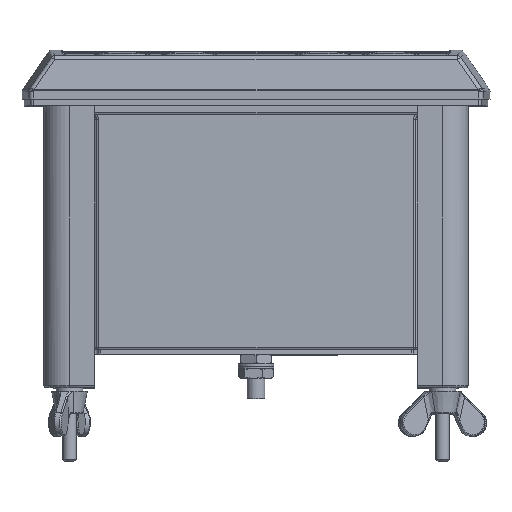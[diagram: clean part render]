
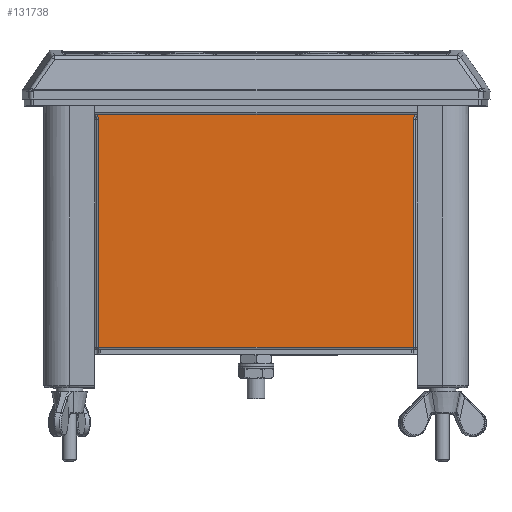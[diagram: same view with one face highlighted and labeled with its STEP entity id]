
A CAD part, front view. The second image highlights one B-rep face of the part: STEP entity #131738.
In plain terms, the highlighted planar face has unit normal (0, -1, 0.002).
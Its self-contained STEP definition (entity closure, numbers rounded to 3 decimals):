
#4489 = CARTESIAN_POINT ( 'NONE',  ( -35.2, -21., -55.5 ) ) ;
#13737 = EDGE_CURVE ( 'NONE', #54902, #117053, #72375, .T. ) ;
#15161 = DIRECTION ( 'NONE',  ( 0., 1., 0. ) ) ;
#17212 = AXIS2_PLACEMENT_3D ( 'NONE', #31670, #157993, #19333 ) ;
#17715 = AXIS2_PLACEMENT_3D ( 'NONE', #127565, #15161, #153804 ) ;
#19333 = DIRECTION ( 'NONE',  ( -1., 0., 0. ) ) ;
#24251 = ORIENTED_EDGE ( 'NONE', *, *, #115477, .T. ) ;
#30584 = ORIENTED_EDGE ( 'NONE', *, *, #35574, .F. ) ;
#31670 = CARTESIAN_POINT ( 'NONE',  ( 36.5, -21., -3.5 ) ) ;
#35574 = EDGE_CURVE ( 'NONE', #143733, #145106, #161404, .T. ) ;
#40367 = ORIENTED_EDGE ( 'NONE', *, *, #44805, .T. ) ;
#43808 = EDGE_CURVE ( 'NONE', #117053, #122779, #46345, .T. ) ;
#44805 = EDGE_CURVE ( 'NONE', #69319, #54902, #154012, .T. ) ;
#46142 = ORIENTED_EDGE ( 'NONE', *, *, #43808, .T. ) ;
#46345 = LINE ( 'NONE', #56266, #138611 ) ;
#46762 = ORIENTED_EDGE ( 'NONE', *, *, #13737, .T. ) ;
#48889 = CARTESIAN_POINT ( 'NONE',  ( 36.5, -21., -3.5 ) ) ;
#52425 = VECTOR ( 'NONE', #66987, 1000. ) ;
#54902 = VERTEX_POINT ( 'NONE', #4489 ) ;
#56266 = CARTESIAN_POINT ( 'NONE',  ( 35.2, -21., -3.5 ) ) ;
#66213 = CARTESIAN_POINT ( 'NONE',  ( -35.2, -21., -3.5 ) ) ;
#66440 = CARTESIAN_POINT ( 'NONE',  ( -35.582, -21., -3.5 ) ) ;
#66987 = DIRECTION ( 'NONE',  ( 0., 0., -1. ) ) ;
#69319 = VERTEX_POINT ( 'NONE', #114702 ) ;
#69348 = PLANE ( 'NONE',  #17212 ) ;
#72375 = LINE ( 'NONE', #97027, #78078 ) ;
#77475 = CARTESIAN_POINT ( 'NONE',  ( 36.7, -21., -4.5 ) ) ;
#78078 = VECTOR ( 'NONE', #133959, 1000. ) ;
#80686 = EDGE_LOOP ( 'NONE', ( #40367, #46762, #46142, #124013, #30584, #24251 ) ) ;
#84134 = FACE_OUTER_BOUND ( 'NONE', #80686, .T. ) ;
#96453 = DIRECTION ( 'NONE',  ( 0., 0., 1. ) ) ;
#97027 = CARTESIAN_POINT ( 'NONE',  ( 36.5, -21., -55.5 ) ) ;
#101295 = DIRECTION ( 'NONE',  ( -1., 0., 0. ) ) ;
#101522 = VECTOR ( 'NONE', #124474, 1000. ) ;
#102130 = DIRECTION ( 'NONE',  ( 0., 1., 0. ) ) ;
#104139 = CIRCLE ( 'NONE', #17715, 1.5 ) ;
#107663 = AXIS2_PLACEMENT_3D ( 'NONE', #77475, #102130, #101295 ) ;
#112339 = CARTESIAN_POINT ( 'NONE',  ( 35.582, -21., -3.5 ) ) ;
#112930 = CIRCLE ( 'NONE', #107663, 1.5 ) ;
#114702 = CARTESIAN_POINT ( 'NONE',  ( -35.2, -21., -4.5 ) ) ;
#115477 = EDGE_CURVE ( 'NONE', #143733, #69319, #104139, .T. ) ;
#117053 = VERTEX_POINT ( 'NONE', #136110 ) ;
#122779 = VERTEX_POINT ( 'NONE', #142570 ) ;
#124013 = ORIENTED_EDGE ( 'NONE', *, *, #145441, .T. ) ;
#124474 = DIRECTION ( 'NONE',  ( 1., 0., 0. ) ) ;
#127565 = CARTESIAN_POINT ( 'NONE',  ( -36.7, -21., -4.5 ) ) ;
#131738 = ADVANCED_FACE ( 'NONE', ( #84134 ), #69348, .F. ) ;
#133959 = DIRECTION ( 'NONE',  ( 1., 0., 0. ) ) ;
#136110 = CARTESIAN_POINT ( 'NONE',  ( 35.2, -21., -55.5 ) ) ;
#138611 = VECTOR ( 'NONE', #96453, 1000. ) ;
#142570 = CARTESIAN_POINT ( 'NONE',  ( 35.2, -21., -4.5 ) ) ;
#143733 = VERTEX_POINT ( 'NONE', #66440 ) ;
#145106 = VERTEX_POINT ( 'NONE', #112339 ) ;
#145441 = EDGE_CURVE ( 'NONE', #122779, #145106, #112930, .T. ) ;
#153804 = DIRECTION ( 'NONE',  ( -1., 0., 0. ) ) ;
#154012 = LINE ( 'NONE', #66213, #52425 ) ;
#157993 = DIRECTION ( 'NONE',  ( 0., 1., 0. ) ) ;
#161404 = LINE ( 'NONE', #48889, #101522 ) ;
